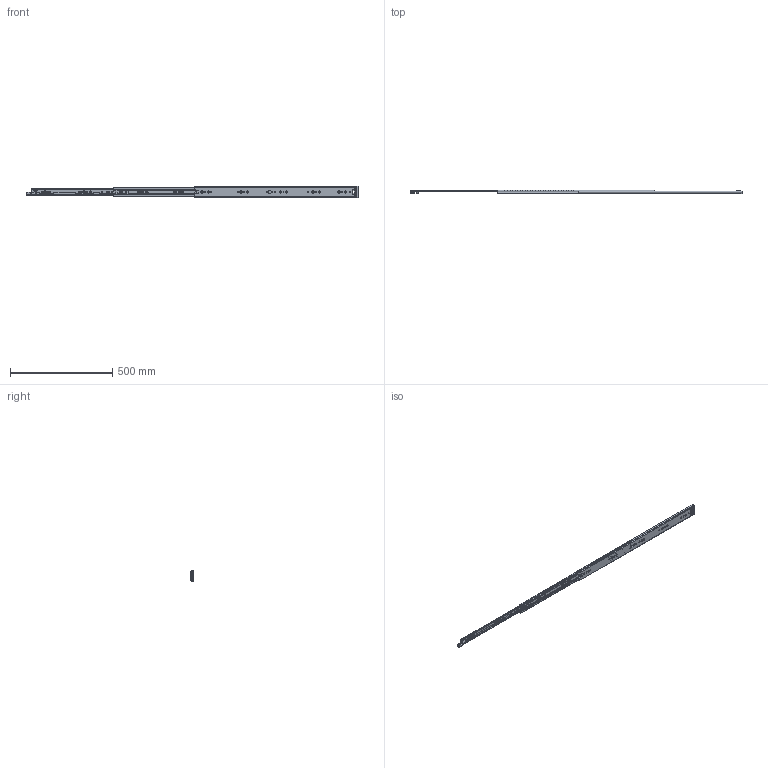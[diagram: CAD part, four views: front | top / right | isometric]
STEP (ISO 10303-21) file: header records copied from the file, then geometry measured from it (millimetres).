
FILE_DESCRIPTION((''),'2;1');
FILE_NAME('KP-57-01ZUZHUANGTU-32_ASM','2022-08-17T',('jishu015'),(''),'PRO/ENGINEER BY PARAMETRIC TECHNOLOGY CORPORATION, 2010280','PRO/ENGINEER BY PARAMETRIC TECHNOLOGY CORPORATION, 2010280','');
FILE_SCHEMA(('CONFIG_CONTROL_DESIGN'));
Products named in the file (22): KP-57-01WEIKE-18__________; 1057WEIJIAO__________; WAIKE_________ASM; KP-57-01ZHONGGUI-18__________; ZHONGGUIPEIJIAN-11________; ZHONGGUISUOKOU-11________; KP-57-01ZHONGGUI-18___________ASM; 1057XIAOZHUJIA__________; 1057-5-6GANZHU__________; 1057XIAOZHUJIA-14GE___________ASM; KP-57-01NEIGUI-18__________; PJ-57-08________; DIAOPIAN-11________; 50XINSUOKOU-1________; TANHUANG________; 1053-3SBANJI122______; JIAO11______; KP-57-01NEIGUI-18___________ASM; 1053ZHUTIAO-175______________; 53-5-6GANZHU______________; 1053ZHUTIAO-175MM_________ASM; KP-57-01ZUZHUANGTU-32_ASM
Assembly tree (90 placements, depth 3):
  KP-57-01ZUZHUANGTU-32_ASM
    WAIKE_________ASM
      KP-57-01WEIKE-18__________
      1057WEIJIAO__________
    KP-57-01ZHONGGUI-18___________ASM
      KP-57-01ZHONGGUI-18__________
      ZHONGGUIPEIJIAN-11________
      ZHONGGUISUOKOU-11________
    1057XIAOZHUJIA-14GE___________ASM
      1057XIAOZHUJIA__________
      1057-5-6GANZHU__________  x56
    KP-57-01NEIGUI-18___________ASM
      KP-57-01NEIGUI-18__________
      PJ-57-08________
      DIAOPIAN-11________
      50XINSUOKOU-1________
      TANHUANG________
      1053-3SBANJI122______
      JIAO11______
    1053ZHUTIAO-175MM_________ASM  x2
      1053ZHUTIAO-175______________
      53-5-6GANZHU______________
Bounding box: 1626.92 x 19 x 57.67 mm (x, y, z)
Volume: 349295 mm3; surface area: 380969.3 mm2
Topology: 102 solids, 102 shells, 2603 faces, 7502 edges, 4688 vertices
Faces by surface type: cylinder 1124, plane 1050, sphere 179, bspline 118, cone 84, torus 25, extrusion 23
Entity records: 84261 total; most frequent: CARTESIAN_POINT 20841, ORIENTED_EDGE 13432, DIRECTION 13053, EDGE_CURVE 6716, AXIS2_PLACEMENT_3D 4518, VERTEX_POINT 4340, VECTOR 4017, LINE 3994
